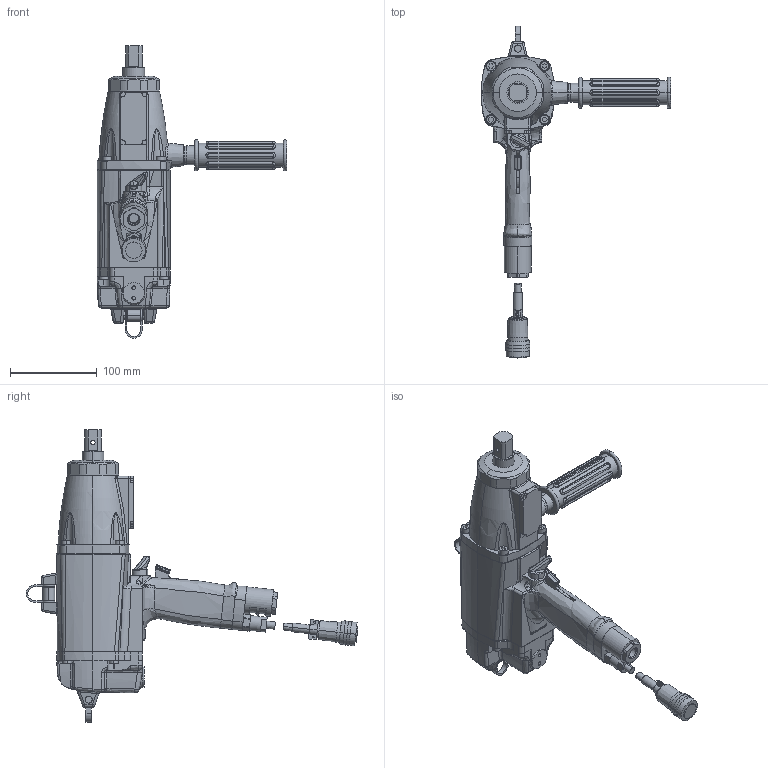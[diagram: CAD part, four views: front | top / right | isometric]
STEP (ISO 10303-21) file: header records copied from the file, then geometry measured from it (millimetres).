
FILE_DESCRIPTION (( 'STEP AP203' ), '1' );
FILE_NAME ('UXR-1820MC.STEP', '2009-02-03T04:29:03', ( ' ' ), ( ' ' ), 'SwSTEP 2.0', 'SolidWorks 2003240', '' );
FILE_SCHEMA (( 'CONFIG_CONTROL_DESIGN' ));
Products named in the file (9): 1484545_UXR-1820MC_蹬怮椔; 1957909_UXR-1820_蹬怮椔; 9102530_UXR-1820MC_蹬怮椔; 1484395_UXR-1820MC_蹬怮椔; UXR-1820MC; 1480255_UXR-1820MC_蹬怮椔; 0181072_UXR-1820MC_蹬怮椔; 1480126_UXR-1820MC_蹬怮椔; 0232124_UXR-1820_蹬怮椔
Assembly tree (9 placements, depth 2):
  UXR-1820MC
    1957909_UXR-1820_蹬怮椔  x2
    9102530_UXR-1820MC_蹬怮椔
    1480255_UXR-1820MC_蹬怮椔
    0181072_UXR-1820MC_蹬怮椔
    1480126_UXR-1820MC_蹬怮椔
    0232124_UXR-1820_蹬怮椔
    1484395_UXR-1820MC_蹬怮椔
    1484545_UXR-1820MC_蹬怮椔
Bounding box: 218 x 382.1 x 336.5 mm (x, y, z)
Volume: 1831590.2 mm3; surface area: 182578.7 mm2
Topology: 9 solids, 9 shells, 1200 faces, 3062 edges, 1937 vertices
Faces by surface type: cylinder 436, plane 384, bspline 308, cone 25, sphere 24, torus 23
Entity records: 169448 total; most frequent: CARTESIAN_POINT 142780, ORIENTED_EDGE 5916, DIRECTION 4443, EDGE_CURVE 2958, VERTEX_POINT 1885, AXIS2_PLACEMENT_3D 1672, EDGE_LOOP 1263, FACE_OUTER_BOUND 1168
